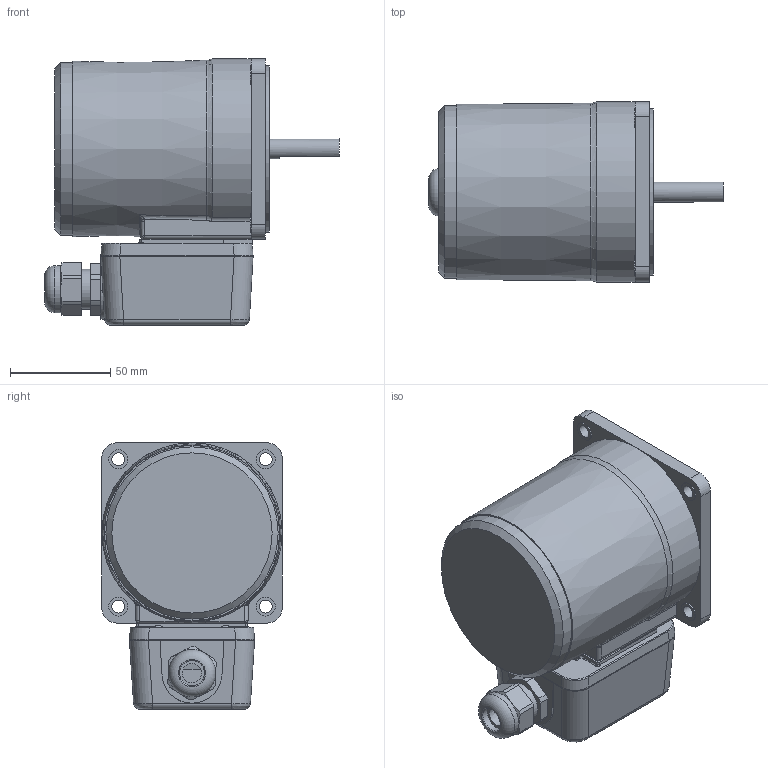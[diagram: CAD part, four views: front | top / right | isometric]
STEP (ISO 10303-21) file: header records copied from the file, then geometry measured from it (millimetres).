
FILE_DESCRIPTION((''),'2;1');
FILE_NAME('D:\STP파일\40W MOTOR\T BOX TYPE\S9(I,R)40D-T.stp','2013-05-20T17:58:46',('leebh'),(''),'Autodesk Inventor 2011','Autodesk Inventor 2011','');
FILE_SCHEMA(('AUTOMOTIVE_DESIGN { 1 0 10303 214 1 1 1 1 }'));
Length unit declared in the file: millimetre
Products named in the file (1): 부품3
Bounding box: 147 x 90 x 133 mm (x, y, z)
Volume: 853169.8 mm3; surface area: 71182.4 mm2
Topology: 1 solids, 9 shells, 370 faces, 911 edges, 578 vertices
Faces by surface type: plane 190, cylinder 109, bspline 49, torus 18, cone 4
Full cylindrical faces by diameter (mm): 2.55 x2, 5.6 x4, 6.3 x4, 6.5 x4, 9.5 x4, 10 x1, 12.5 x1, 15 x1, 20 x2, 21 x1, 23.6 x1, 40 x1, 83 x1, 86 x1
Entity records: 12697 total; most frequent: CARTESIAN_POINT 4075, ORIENTED_EDGE 1694, DIRECTION 1642, EDGE_CURVE 847, AXIS2_PLACEMENT_3D 591, VERTEX_POINT 565, VECTOR 460, LINE 460
